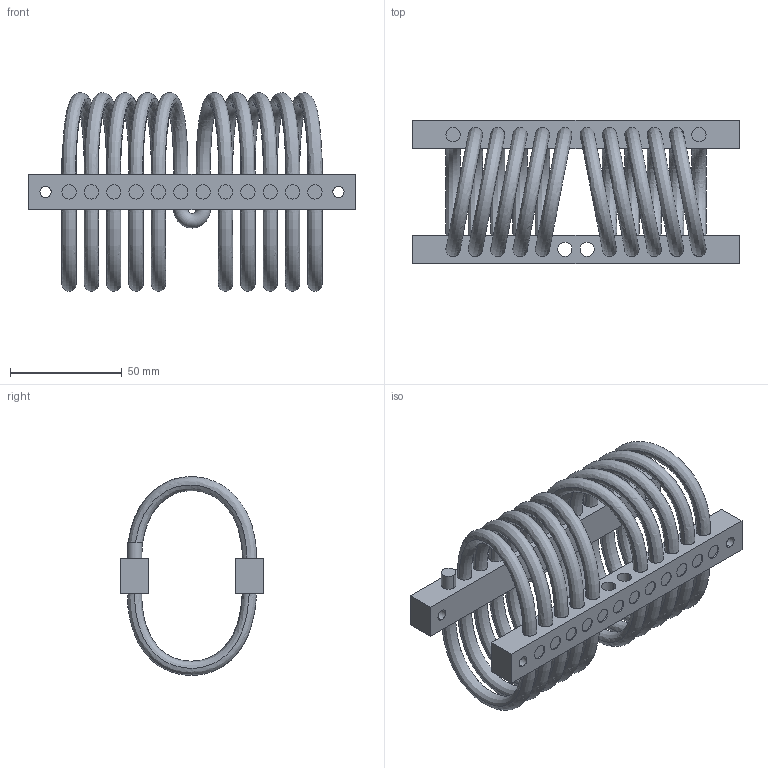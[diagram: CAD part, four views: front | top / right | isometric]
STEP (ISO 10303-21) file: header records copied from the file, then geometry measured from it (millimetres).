
FILE_DESCRIPTION (( 'STEP AP214' ), '1' );
FILE_NAME ('WR8-700-10DM.STEP', '2018-12-07T09:58:34', ( 'user' ), ( 'Microsoft' ), 'SwSTEP 2.0', 'SolidWorks 2016', '' );
FILE_SCHEMA (( 'AUTOMOTIVE_DESIGN' ));
Length unit declared in the file: millimetre
Products named in the file (1): WR8-700-10DM
Bounding box: 146.1 x 64 x 88.94 mm (x, y, z)
Volume: 118421.6 mm3; surface area: 71689 mm2
Topology: 25 solids, 25 shells, 316 faces, 682 edges, 440 vertices
Faces by surface type: cylinder 192, plane 82, bspline 40, torus 2
Entity records: 26870 total; most frequent: CARTESIAN_POINT 19579, DIRECTION 1462, ORIENTED_EDGE 1364, EDGE_CURVE 682, AXIS2_PLACEMENT_3D 623, VERTEX_POINT 440, EDGE_LOOP 396, CIRCLE 346
